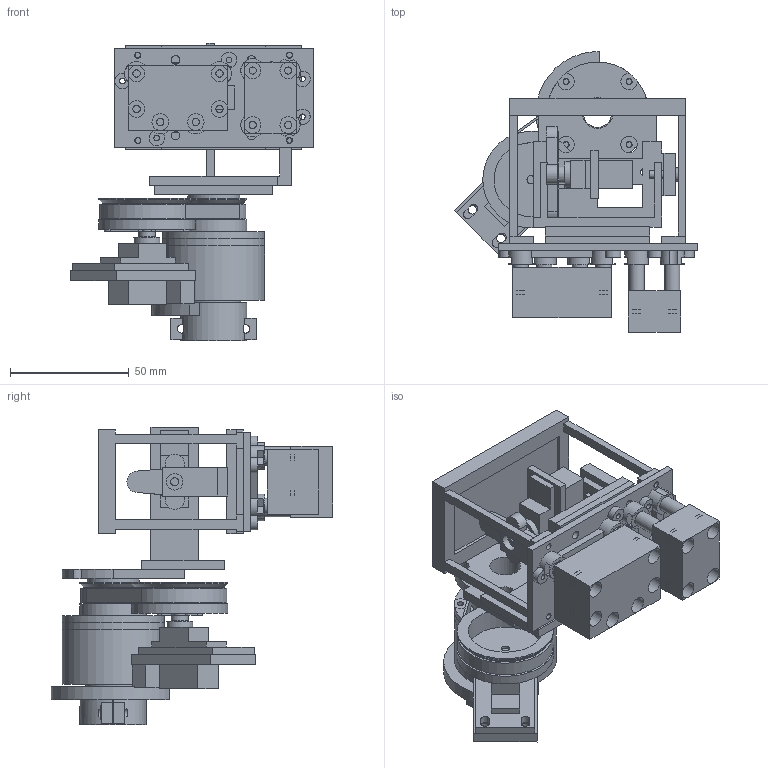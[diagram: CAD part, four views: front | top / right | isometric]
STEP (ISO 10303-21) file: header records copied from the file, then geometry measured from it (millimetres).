
FILE_DESCRIPTION(('FreeCAD Model'),'2;1');
FILE_NAME('Open CASCADE Shape Model','2026-10-05T12:05:10',('FreeCAD'),( 'FreeCAD'),'Open CASCADE STEP processor 7.8','FreeCAD','Unknown');
FILE_SCHEMA(('AUTOMOTIVE_DESIGN { 1 0 10303 214 1 1 1 1 }'));
Length unit declared in the file: millimetre
Products named in the file (1): Open CASCADE STEP translator 7.8 1
Bounding box: 102.22 x 118.6 x 125.5 mm (x, y, z)
Volume: 183442 mm3; surface area: 118466.3 mm2
Topology: 26 solids, 26 shells, 1209 faces, 3274 edges, 2157 vertices
Faces by surface type: plane 771, cylinder 435, cone 3
Full cylindrical faces by diameter (mm): 2.35 x22, 2.6 x18, 3 x5, 3.1 x6, 3.4 x2, 3.6 x35, 4.5 x1, 4.8 x2, 5 x2, 5.5 x1, 6.5 x8, 7 x23, 7.1 x4, 7.65 x2, 10 x6, 11 x2, 12 x1, 13 x1, 19.25 x2, 20 x2, 20.05 x2, 20.2 x1, 22 x1, 23 x1, 24 x1, 24.8 x1, 26 x1, 27.957 x1, 28 x1, 29 x1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
Entity records: 38898 total; most frequent: DIRECTION 6962, CARTESIAN_POINT 6823, ORIENTED_EDGE 6548, EDGE_CURVE 3274, AXIS2_PLACEMENT_3D 2510, VERTEX_POINT 2157, LINE 1942, VECTOR 1942
